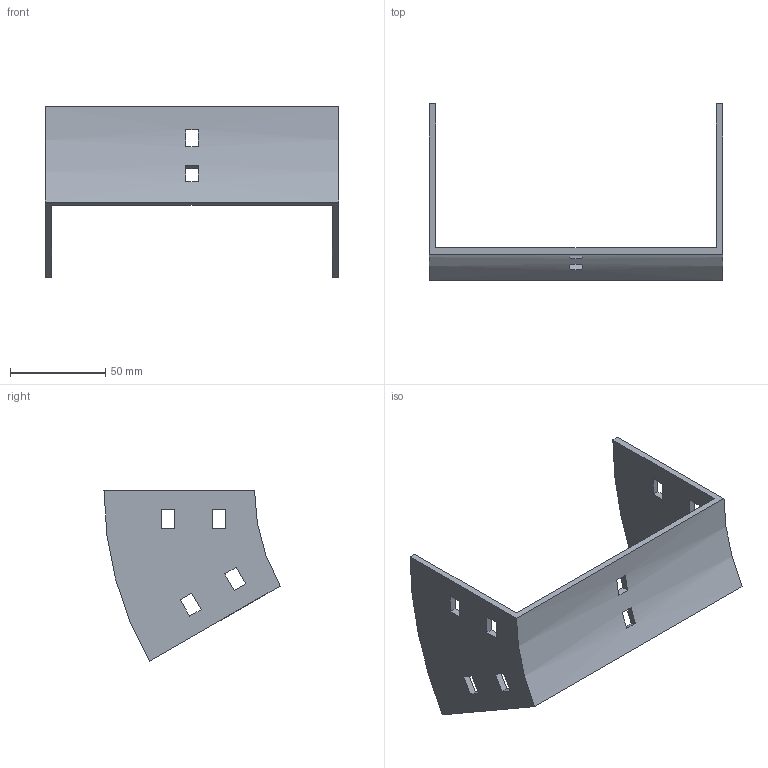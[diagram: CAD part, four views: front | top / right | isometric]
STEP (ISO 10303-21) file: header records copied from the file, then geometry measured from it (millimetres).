
FILE_DESCRIPTION (( 'STEP AP214' ), '1' );
FILE_NAME ('35B1C150.step', '2025-02-21T09:26:24', ( '' ), ( '' ), 'SwSTEP 2.0', 'SolidWorks 2023', '' );
FILE_SCHEMA (( 'AUTOMOTIVE_DESIGN' ));
Length unit declared in the file: millimetre
Products named in the file (1): 35B1C150
Bounding box: 154 x 92.4 x 89.5 mm (x, y, z)
Volume: 65427.7 mm3; surface area: 41344 mm2
Topology: 1 solids, 1 shells, 50 faces, 144 edges, 96 vertices
Faces by surface type: plane 46, cylinder 4
Entity records: 1687 total; most frequent: CARTESIAN_POINT 291, ORIENTED_EDGE 288, DIRECTION 262, EDGE_CURVE 144, LINE 128, VECTOR 128, VERTEX_POINT 96, EDGE_LOOP 70
